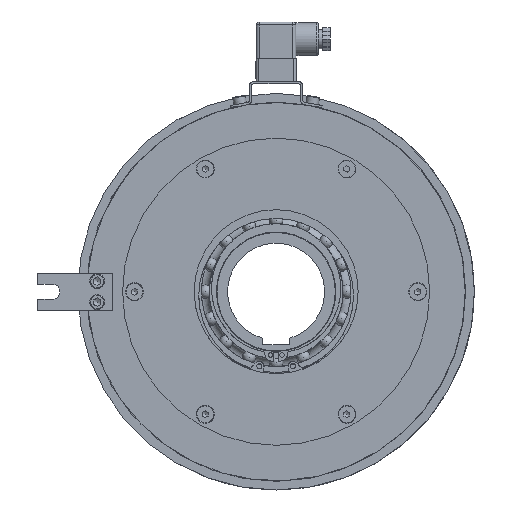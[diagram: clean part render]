
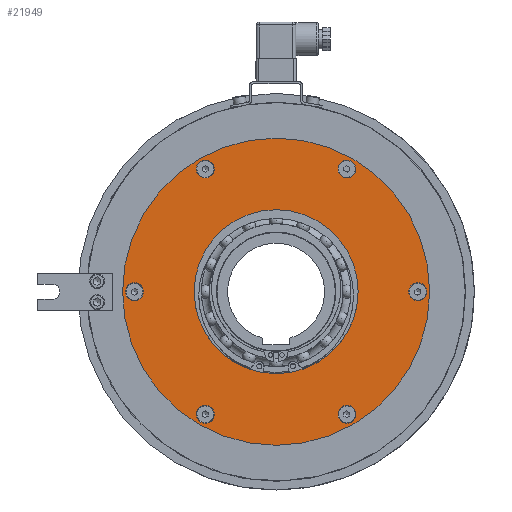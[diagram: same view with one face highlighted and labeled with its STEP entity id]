
A CAD part, left-side view. The second image highlights one B-rep face of the part: STEP entity #21949.
In plain terms, the highlighted planar face has unit normal (-1, 0, 0).
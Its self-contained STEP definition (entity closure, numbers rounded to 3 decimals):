
#619=PLANE('',#23497);
#987=FACE_BOUND('',#2695,.T.);
#988=FACE_BOUND('',#2696,.T.);
#989=FACE_BOUND('',#2697,.T.);
#990=FACE_BOUND('',#2698,.T.);
#991=FACE_BOUND('',#2699,.T.);
#992=FACE_BOUND('',#2700,.T.);
#993=FACE_BOUND('',#2701,.T.);
#1517=FACE_OUTER_BOUND('',#2694,.T.);
#2694=EDGE_LOOP('',(#15665,#15666));
#2695=EDGE_LOOP('',(#15667,#15668));
#2696=EDGE_LOOP('',(#15669,#15670));
#2697=EDGE_LOOP('',(#15671,#15672));
#2698=EDGE_LOOP('',(#15673,#15674));
#2699=EDGE_LOOP('',(#15675,#15676));
#2700=EDGE_LOOP('',(#15677,#15678));
#2701=EDGE_LOOP('',(#15679,#15680));
#4640=CIRCLE('',#23480,6.);
#4641=CIRCLE('',#23481,6.);
#4642=CIRCLE('',#23483,6.);
#4643=CIRCLE('',#23484,6.);
#4644=CIRCLE('',#23486,6.);
#4645=CIRCLE('',#23487,6.);
#4646=CIRCLE('',#23489,6.);
#4647=CIRCLE('',#23490,6.);
#4648=CIRCLE('',#23492,6.);
#4649=CIRCLE('',#23493,6.);
#4650=CIRCLE('',#23495,6.);
#4651=CIRCLE('',#23496,6.);
#4652=CIRCLE('',#23498,103.);
#4653=CIRCLE('',#23499,103.);
#4654=CIRCLE('',#23500,55.);
#4655=CIRCLE('',#23501,55.);
#8717=VERTEX_POINT('',#38776);
#8718=VERTEX_POINT('',#38777);
#8719=VERTEX_POINT('',#38782);
#8720=VERTEX_POINT('',#38783);
#8721=VERTEX_POINT('',#38788);
#8722=VERTEX_POINT('',#38789);
#8723=VERTEX_POINT('',#38794);
#8724=VERTEX_POINT('',#38795);
#8725=VERTEX_POINT('',#38800);
#8726=VERTEX_POINT('',#38801);
#8727=VERTEX_POINT('',#38806);
#8728=VERTEX_POINT('',#38807);
#8729=VERTEX_POINT('',#38812);
#8730=VERTEX_POINT('',#38813);
#8731=VERTEX_POINT('',#38816);
#8732=VERTEX_POINT('',#38817);
#11365=EDGE_CURVE('',#8717,#8718,#4640,.T.);
#11366=EDGE_CURVE('',#8718,#8717,#4641,.T.);
#11368=EDGE_CURVE('',#8719,#8720,#4642,.T.);
#11369=EDGE_CURVE('',#8720,#8719,#4643,.T.);
#11371=EDGE_CURVE('',#8721,#8722,#4644,.T.);
#11372=EDGE_CURVE('',#8722,#8721,#4645,.T.);
#11374=EDGE_CURVE('',#8723,#8724,#4646,.T.);
#11375=EDGE_CURVE('',#8724,#8723,#4647,.T.);
#11377=EDGE_CURVE('',#8725,#8726,#4648,.T.);
#11378=EDGE_CURVE('',#8726,#8725,#4649,.T.);
#11380=EDGE_CURVE('',#8727,#8728,#4650,.T.);
#11381=EDGE_CURVE('',#8728,#8727,#4651,.T.);
#11383=EDGE_CURVE('',#8729,#8730,#4652,.T.);
#11384=EDGE_CURVE('',#8730,#8729,#4653,.T.);
#11385=EDGE_CURVE('',#8731,#8732,#4654,.T.);
#11386=EDGE_CURVE('',#8732,#8731,#4655,.T.);
#15665=ORIENTED_EDGE('',*,*,#11383,.F.);
#15666=ORIENTED_EDGE('',*,*,#11384,.F.);
#15667=ORIENTED_EDGE('',*,*,#11365,.T.);
#15668=ORIENTED_EDGE('',*,*,#11366,.T.);
#15669=ORIENTED_EDGE('',*,*,#11368,.T.);
#15670=ORIENTED_EDGE('',*,*,#11369,.T.);
#15671=ORIENTED_EDGE('',*,*,#11371,.T.);
#15672=ORIENTED_EDGE('',*,*,#11372,.T.);
#15673=ORIENTED_EDGE('',*,*,#11374,.T.);
#15674=ORIENTED_EDGE('',*,*,#11375,.T.);
#15675=ORIENTED_EDGE('',*,*,#11377,.T.);
#15676=ORIENTED_EDGE('',*,*,#11378,.T.);
#15677=ORIENTED_EDGE('',*,*,#11380,.T.);
#15678=ORIENTED_EDGE('',*,*,#11381,.T.);
#15679=ORIENTED_EDGE('',*,*,#11385,.T.);
#15680=ORIENTED_EDGE('',*,*,#11386,.T.);
#21949=ADVANCED_FACE('',(#1517,#987,#988,#989,#990,#991,#992,#993),#619,
 .T.);
#23480=AXIS2_PLACEMENT_3D('',#38778,#27198,#27199);
#23481=AXIS2_PLACEMENT_3D('',#38779,#27200,#27201);
#23483=AXIS2_PLACEMENT_3D('',#38784,#27205,#27206);
#23484=AXIS2_PLACEMENT_3D('',#38785,#27207,#27208);
#23486=AXIS2_PLACEMENT_3D('',#38790,#27212,#27213);
#23487=AXIS2_PLACEMENT_3D('',#38791,#27214,#27215);
#23489=AXIS2_PLACEMENT_3D('',#38796,#27219,#27220);
#23490=AXIS2_PLACEMENT_3D('',#38797,#27221,#27222);
#23492=AXIS2_PLACEMENT_3D('',#38802,#27226,#27227);
#23493=AXIS2_PLACEMENT_3D('',#38803,#27228,#27229);
#23495=AXIS2_PLACEMENT_3D('',#38808,#27233,#27234);
#23496=AXIS2_PLACEMENT_3D('',#38809,#27235,#27236);
#23497=AXIS2_PLACEMENT_3D('',#38811,#27238,#27239);
#23498=AXIS2_PLACEMENT_3D('',#38814,#27240,#27241);
#23499=AXIS2_PLACEMENT_3D('',#38815,#27242,#27243);
#23500=AXIS2_PLACEMENT_3D('',#38818,#27244,#27245);
#23501=AXIS2_PLACEMENT_3D('',#38819,#27246,#27247);
#27198=DIRECTION('center_axis',(1.,0.,0.));
#27199=DIRECTION('ref_axis',(0.,0.,
1.));
#27200=DIRECTION('center_axis',(1.,0.,0.));
#27201=DIRECTION('ref_axis',(0.,0.,
1.));
#27205=DIRECTION('center_axis',(1.,0.,0.));
#27206=DIRECTION('ref_axis',(0.,0.,
1.));
#27207=DIRECTION('center_axis',(1.,0.,0.));
#27208=DIRECTION('ref_axis',(0.,0.,
1.));
#27212=DIRECTION('center_axis',(1.,0.,0.));
#27213=DIRECTION('ref_axis',(0.,0.,
1.));
#27214=DIRECTION('center_axis',(1.,0.,0.));
#27215=DIRECTION('ref_axis',(0.,0.,
1.));
#27219=DIRECTION('center_axis',(1.,0.,0.));
#27220=DIRECTION('ref_axis',(0.,0.,
1.));
#27221=DIRECTION('center_axis',(1.,0.,0.));
#27222=DIRECTION('ref_axis',(0.,0.,
1.));
#27226=DIRECTION('center_axis',(1.,0.,0.));
#27227=DIRECTION('ref_axis',(0.,0.,
1.));
#27228=DIRECTION('center_axis',(1.,0.,0.));
#27229=DIRECTION('ref_axis',(0.,0.,
1.));
#27233=DIRECTION('center_axis',(1.,0.,0.));
#27234=DIRECTION('ref_axis',(0.,0.,
1.));
#27235=DIRECTION('center_axis',(1.,0.,0.));
#27236=DIRECTION('ref_axis',(0.,0.,
1.));
#27238=DIRECTION('center_axis',(-1.,0.,0.));
#27239=DIRECTION('ref_axis',(0.,0.,
1.));
#27240=DIRECTION('center_axis',(1.,0.,0.));
#27241=DIRECTION('ref_axis',(0.,1.,0.));
#27242=DIRECTION('center_axis',(1.,0.,0.));
#27243=DIRECTION('ref_axis',(0.,1.,0.));
#27244=DIRECTION('center_axis',(1.,0.,0.));
#27245=DIRECTION('ref_axis',(0.,1.,0.));
#27246=DIRECTION('center_axis',(1.,0.,0.));
#27247=DIRECTION('ref_axis',(0.,1.,0.));
#38776=CARTESIAN_POINT('',(-74.,47.5,88.272));
#38777=CARTESIAN_POINT('',(-74.,47.5,76.272));
#38778=CARTESIAN_POINT('Origin',(-74.,47.5,82.272));
#38779=CARTESIAN_POINT('Origin',(-74.,47.5,82.272));
#38782=CARTESIAN_POINT('',(-74.,-47.5,88.272));
#38783=CARTESIAN_POINT('',(-74.,-47.5,76.272));
#38784=CARTESIAN_POINT('Origin',(-74.,-47.5,82.272));
#38785=CARTESIAN_POINT('Origin',(-74.,-47.5,82.272));
#38788=CARTESIAN_POINT('',(-74.,-95.,6.));
#38789=CARTESIAN_POINT('',(-74.,-95.,-6.));
#38790=CARTESIAN_POINT('Origin',(-74.,-95.,0.));
#38791=CARTESIAN_POINT('Origin',(-74.,-95.,0.));
#38794=CARTESIAN_POINT('',(-74.,-47.5,-76.272));
#38795=CARTESIAN_POINT('',(-74.,-47.5,-88.272));
#38796=CARTESIAN_POINT('Origin',(-74.,-47.5,-82.272));
#38797=CARTESIAN_POINT('Origin',(-74.,-47.5,-82.272));
#38800=CARTESIAN_POINT('',(-74.,47.5,-76.272));
#38801=CARTESIAN_POINT('',(-74.,47.5,-88.272));
#38802=CARTESIAN_POINT('Origin',(-74.,47.5,-82.272));
#38803=CARTESIAN_POINT('Origin',(-74.,47.5,-82.272));
#38806=CARTESIAN_POINT('',(-74.,95.,6.));
#38807=CARTESIAN_POINT('',(-74.,95.,-6.));
#38808=CARTESIAN_POINT('Origin',(-74.,95.,0.));
#38809=CARTESIAN_POINT('Origin',(-74.,95.,0.));
#38811=CARTESIAN_POINT('Origin',(-74.,79.,0.));
#38812=CARTESIAN_POINT('',(-74.,103.,0.));
#38813=CARTESIAN_POINT('',(-74.,-103.,0.));
#38814=CARTESIAN_POINT('Origin',(-74.,0.,0.));
#38815=CARTESIAN_POINT('Origin',(-74.,0.,0.));
#38816=CARTESIAN_POINT('',(-74.,55.,0.));
#38817=CARTESIAN_POINT('',(-74.,-55.,0.));
#38818=CARTESIAN_POINT('Origin',(-74.,0.,0.));
#38819=CARTESIAN_POINT('Origin',(-74.,0.,0.));
